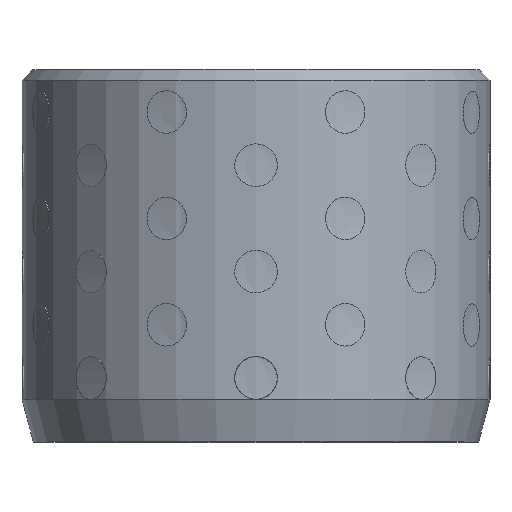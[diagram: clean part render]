
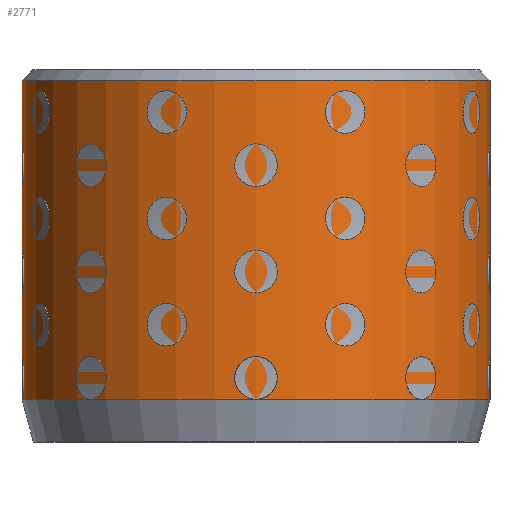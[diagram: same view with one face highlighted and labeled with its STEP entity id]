
A CAD part, top view. The second image highlights one B-rep face of the part: STEP entity #2771.
In plain terms, the highlighted cylindrical face has radius 22 mm (diameter 44 mm), a full revolution.
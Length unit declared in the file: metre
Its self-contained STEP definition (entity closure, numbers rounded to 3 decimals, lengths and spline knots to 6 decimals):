
#2771 = ADVANCED_FACE( '', ( #2961, #2962 ), #2963, .T. );
#2961 = FACE_OUTER_BOUND( '', #3377, .T. );
#2962 = FACE_OUTER_BOUND( '', #3378, .T. );
#2963 = CYLINDRICAL_SURFACE( '', #3379, 0.022 );
#3377 = EDGE_LOOP( '', ( #3805 ) );
#3378 = EDGE_LOOP( '', ( #3806 ) );
#3379 = AXIS2_PLACEMENT_3D( '', #3807, #3808, #3809 );
#3805 = ORIENTED_EDGE( '', *, *, #4550, .T. );
#3806 = ORIENTED_EDGE( '', *, *, #4549, .F. );
#3807 = CARTESIAN_POINT( '', ( 0., 0., 0. ) );
#3808 = DIRECTION( '', ( 0., 1., 0. ) );
#3809 = DIRECTION( '', ( 0., 0., -1. ) );
#4549 = EDGE_CURVE( '', #4675, #4675, #4676, .T. );
#4550 = EDGE_CURVE( '', #4677, #4677, #4678, .T. );
#4675 = VERTEX_POINT( '', #4915 );
#4676 = CIRCLE( '', #4916, 0.022 );
#4677 = VERTEX_POINT( '', #4917 );
#4678 = CIRCLE( '', #4918, 0.022 );
#4915 = CARTESIAN_POINT( '', ( 0., 0.004, -0.022 ) );
#4916 = AXIS2_PLACEMENT_3D( '', #11097, #11098, #11099 );
#4917 = CARTESIAN_POINT( '', ( 0., 0.034, -0.022 ) );
#4918 = AXIS2_PLACEMENT_3D( '', #11100, #11101, #11102 );
#11097 = CARTESIAN_POINT( '', ( 0., 0.004, 0. ) );
#11098 = DIRECTION( '', ( 0., -1., 0. ) );
#11099 = DIRECTION( '', ( 0., 0., -1. ) );
#11100 = CARTESIAN_POINT( '', ( 0., 0.034, 0. ) );
#11101 = DIRECTION( '', ( 0., -1., 0. ) );
#11102 = DIRECTION( '', ( 0., 0., -1. ) );
